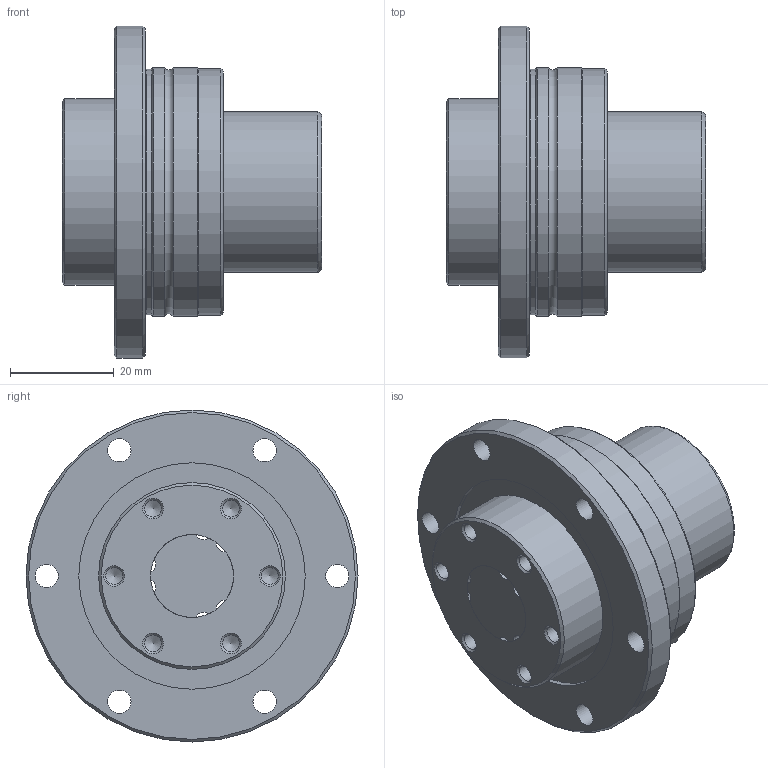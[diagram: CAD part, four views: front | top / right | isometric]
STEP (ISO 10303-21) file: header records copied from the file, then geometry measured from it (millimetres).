
FILE_DESCRIPTION(/* description */ ('STEP AP203'),/* implementation_level */ '2;1');
FILE_NAME(/* name */ 'LTR16A+50L(0_0)',/* time_stamp */ '2024-05-28T07:52:00+02:00',/* author */ ('License CC BY-ND 4.0'),/* organization */ ('CADENAS'),/* preprocessor_version */ 'ST-DEVELOPER v19.3',/* originating_system */ 'PARTsolutions',/* authorisation */ ' ');
FILE_SCHEMA (('CONFIG_CONTROL_DESIGN'));
Length unit declared in the file: millimetre
Products named in the file (3): LTR16A+50L(0,0); LTR 16A50 LTRA Shaft; LTR 16A LTRA ACyl
Assembly tree (3 placements, depth 2):
  LTR16A+50L(0,0)
    LTR 16A50 LTRA Shaft
    LTR 16A LTRA ACyl  x2
Bounding box: 50 x 64 x 64 mm (x, y, z)
Volume: 126292 mm3; surface area: 35779.3 mm2
Topology: 3 solids, 3 shells, 122 faces, 286 edges, 184 vertices
Faces by surface type: cylinder 60, cone 32, plane 20, torus 10
Full cylindrical faces by diameter (mm): 1.5 x2, 3.242 x12, 4.5 x12, 16 x2, 31 x2, 36 x4, 43.2 x2, 43.636 x2, 47.4 x2, 47.5 x2, 48 x4, 64 x2
Entity records: 1730 total; most frequent: DIRECTION 322, CARTESIAN_POINT 272, ORIENTED_EDGE 192, AXIS2_PLACEMENT_3D 155, FACE_BOUND 140, EDGE_LOOP 134, EDGE_CURVE 96, VERTEX_POINT 90
